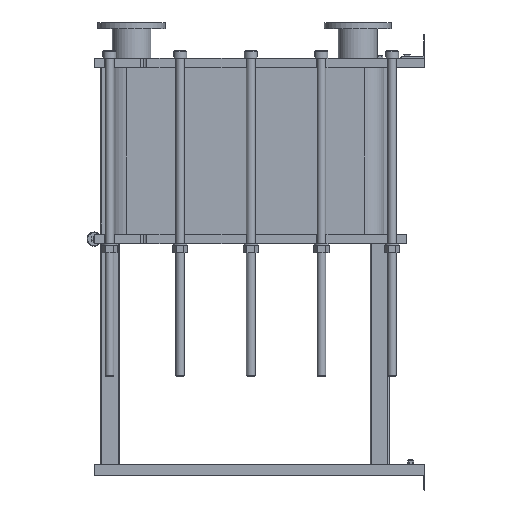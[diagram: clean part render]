
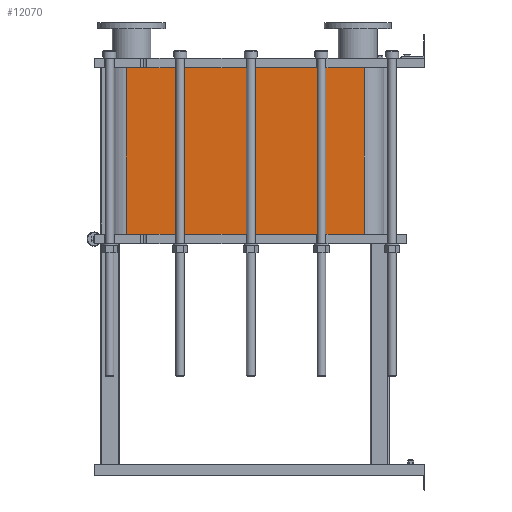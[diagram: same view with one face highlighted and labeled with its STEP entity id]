
A CAD part, left-side view. The second image highlights one B-rep face of the part: STEP entity #12070.
In plain terms, the highlighted planar face has unit normal (-1, 0, 0).
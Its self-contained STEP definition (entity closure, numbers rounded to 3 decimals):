
#1064=LINE('',#21140,#2164);
#1065=LINE('',#21144,#2165);
#1066=LINE('',#21146,#2166);
#1067=LINE('',#21147,#2167);
#2164=VECTOR('',#15790,10.);
#2165=VECTOR('',#15795,10.);
#2166=VECTOR('',#15796,10.);
#2167=VECTOR('',#15797,10.);
#3304=FACE_OUTER_BOUND('',#4091,.T.);
#4091=EDGE_LOOP('',(#9793,#9794,#9795,#9796));
#5677=VERTEX_POINT('',#21137);
#5678=VERTEX_POINT('',#21139);
#5679=VERTEX_POINT('',#21143);
#5680=VERTEX_POINT('',#21145);
#7118=EDGE_CURVE('',#5678,#5677,#1064,.T.);
#7120=EDGE_CURVE('',#5677,#5679,#1065,.T.);
#7121=EDGE_CURVE('',#5680,#5679,#1066,.T.);
#7122=EDGE_CURVE('',#5680,#5678,#1067,.T.);
#9793=ORIENTED_EDGE('',*,*,#7120,.T.);
#9794=ORIENTED_EDGE('',*,*,#7121,.F.);
#9795=ORIENTED_EDGE('',*,*,#7122,.T.);
#9796=ORIENTED_EDGE('',*,*,#7118,.T.);
#11441=PLANE('',#13191);
#12070=ADVANCED_FACE('',(#3304),#11441,.T.);
#13191=AXIS2_PLACEMENT_3D('',#21142,#15793,#15794);
#15790=DIRECTION('',(0.,0.,-1.));
#15793=DIRECTION('center_axis',(-1.,0.,0.));
#15794=DIRECTION('ref_axis',(0.,1.,0.));
#15795=DIRECTION('',(0.,-1.,0.));
#15796=DIRECTION('',(0.,0.,-1.));
#15797=DIRECTION('',(0.,1.,0.));
#21137=CARTESIAN_POINT('',(-248.152,1243.818,-693.45));
#21139=CARTESIAN_POINT('',(-248.152,1243.818,0.));
#21140=CARTESIAN_POINT('',(-248.152,1243.818,0.));
#21142=CARTESIAN_POINT('Origin',(-248.152,251.818,0.));
#21143=CARTESIAN_POINT('',(-248.152,251.818,-693.45));
#21144=CARTESIAN_POINT('',(-248.152,499.818,-693.45));
#21145=CARTESIAN_POINT('',(-248.152,251.818,0.));
#21146=CARTESIAN_POINT('',(-248.152,251.818,0.));
#21147=CARTESIAN_POINT('',(-248.152,251.818,0.));
